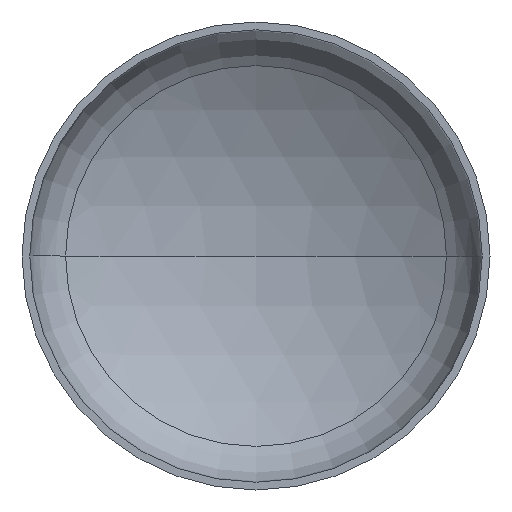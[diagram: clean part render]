
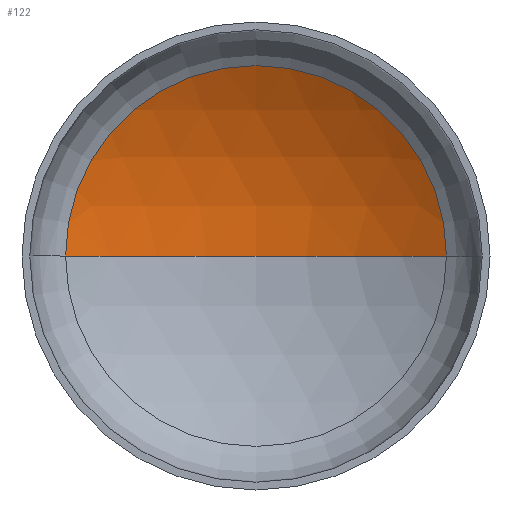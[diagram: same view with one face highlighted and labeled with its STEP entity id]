
A CAD part, front view. The second image highlights one B-rep face of the part: STEP entity #122.
In plain terms, the highlighted spherical face has radius 720 mm.
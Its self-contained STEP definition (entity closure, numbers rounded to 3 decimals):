
#11 = CARTESIAN_POINT ( 'NONE',  ( 0., -454.375, 0. ) ) ;
#25 = AXIS2_PLACEMENT_3D ( 'NONE', #11, #161, #148 ) ;
#34 = AXIS2_PLACEMENT_3D ( 'NONE', #181, #175, #177 ) ;
#35 = AXIS2_PLACEMENT_3D ( 'NONE', #156, #157, #286 ) ;
#36 = AXIS2_PLACEMENT_3D ( 'NONE', #295, #278, #275 ) ;
#62 = EDGE_CURVE ( 'NONE', #179, #189, #255, .T. ) ;
#63 = EDGE_CURVE ( 'NONE', #352, #179, #178, .T. ) ;
#64 = EDGE_CURVE ( 'NONE', #352, #189, #391, .T. ) ;
#122 = ADVANCED_FACE ( 'NONE', ( #154 ), #236, .F. ) ;
#146 = ORIENTED_EDGE ( 'NONE', *, *, #62, .T. ) ;
#148 = DIRECTION ( 'NONE',  ( -1., 0., 0. ) ) ;
#154 = FACE_OUTER_BOUND ( 'NONE', #288, .T. ) ;
#156 = CARTESIAN_POINT ( 'NONE',  ( 0., -454.375, 0. ) ) ;
#157 = DIRECTION ( 'NONE',  ( 0., 0., -1. ) ) ;
#161 = DIRECTION ( 'NONE',  ( 0., 0., -1. ) ) ;
#175 = DIRECTION ( 'NONE',  ( 0., 0., 1. ) ) ;
#177 = DIRECTION ( 'NONE',  ( 1., 0., 0. ) ) ;
#178 = CIRCLE ( 'NONE', #35, 720. ) ;
#179 = VERTEX_POINT ( 'NONE', #242 ) ;
#181 = CARTESIAN_POINT ( 'NONE',  ( 0., -454.375, 0. ) ) ;
#189 = VERTEX_POINT ( 'NONE', #244 ) ;
#202 = ORIENTED_EDGE ( 'NONE', *, *, #64, .F. ) ;
#223 = CARTESIAN_POINT ( 'NONE',  ( 0., 265.625, 0. ) ) ;
#236 = SPHERICAL_SURFACE ( 'NONE', #25, 720. ) ;
#242 = CARTESIAN_POINT ( 'NONE',  ( 366.207, 165.539, 0. ) ) ;
#244 = CARTESIAN_POINT ( 'NONE',  ( -366.207, 165.539, 0. ) ) ;
#255 = CIRCLE ( 'NONE', #36, 366.207 ) ;
#275 = DIRECTION ( 'NONE',  ( 1., 0., 0. ) ) ;
#278 = DIRECTION ( 'NONE',  ( 0., -1., 0. ) ) ;
#286 = DIRECTION ( 'NONE',  ( -1., 0., 0. ) ) ;
#288 = EDGE_LOOP ( 'NONE', ( #202, #407, #146 ) ) ;
#295 = CARTESIAN_POINT ( 'NONE',  ( 0., 165.539, 0. ) ) ;
#352 = VERTEX_POINT ( 'NONE', #223 ) ;
#391 = CIRCLE ( 'NONE', #34, 720. ) ;
#407 = ORIENTED_EDGE ( 'NONE', *, *, #63, .T. ) ;
